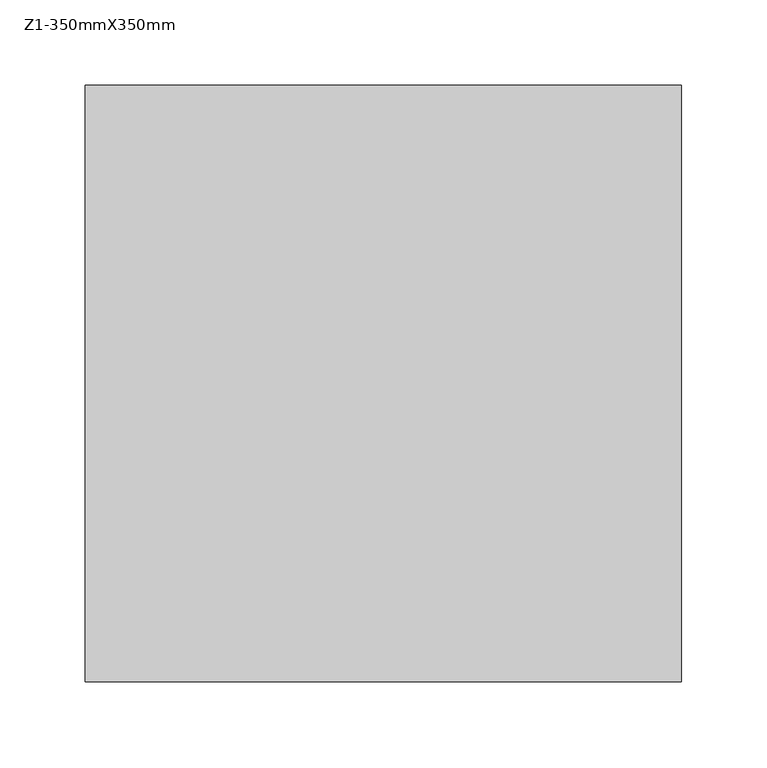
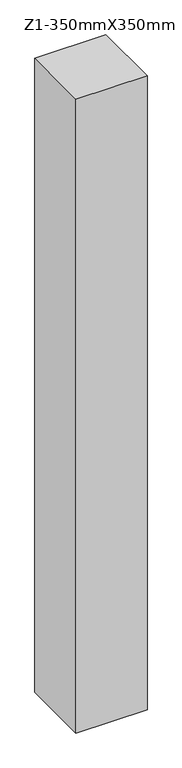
"""IFC4 building model written with IfcOpenShell, lengths in millimetres: column geometry, 混凝土 - 矩形 - 柱 : Z1-350mmX350mm."""

from ifc_helpers import new_model, si_unit, frame, origin, place, context, project, spatial, polyline, outline, extrude, source, transform, mapped, element, save


def z1_350mmx350mm_a98c464a(model_context):
    return source(origin(), model_context, "Body", "SweptSolid", [
        extrude(outline(polyline([(175.0, 175.0), (175.0, -175.0), (-175.0, -175.0), (-175.0, 175.0), (175.0, 175.0)])), frame((0.0, 0.0, 7200.0), z_axis=(0.0, 0.0, 1.0), x_axis=(1.0, 0.0, 0.0)), (0.0, 0.0, 1.0), 3300.0),
    ])


if __name__ == "__main__":
    model = new_model("IFC4")
    model_context = context("Model", 3, world=origin())
    ifc_project = project(units=[si_unit("LENGTHUNIT", "METRE", prefix="MILLI")], contexts=[model_context])
    site = spatial("IfcSite", under=ifc_project)
    building = spatial("IfcBuilding", under=site)
    placement = place(None, origin())
    z1_350mmx350mm_shape = z1_350mmx350mm_a98c464a(model_context)
    element("IfcColumn", 1, ObjectType="混凝土 - 矩形 - 柱 : Z1-350mmX350mm", at=placement, inside=building, context=model_context, shape_type="MappedRepresentation", body=[
        mapped(z1_350mmx350mm_shape, transform((0.0, 0.0, 0.0), x_axis=(1.0, 0.0, 0.0), y_axis=(0.0, 1.0, 0.0), z_axis=(0.0, 0.0, 1.0))),
    ])
    save(model, "model.ifc")
